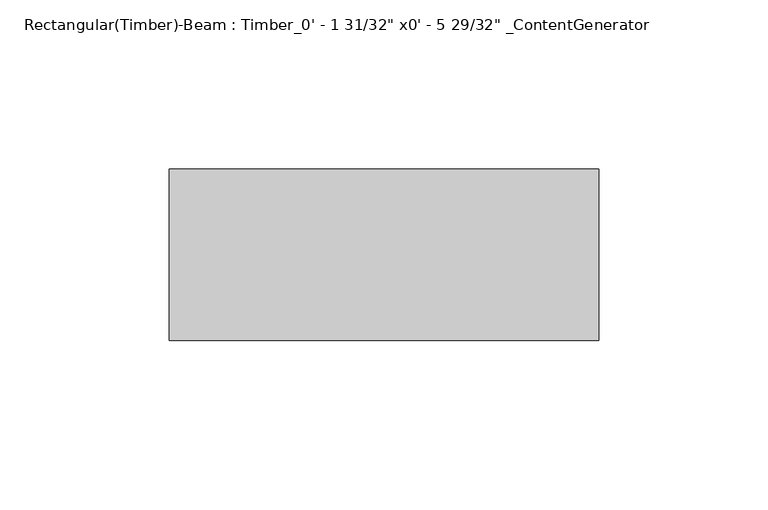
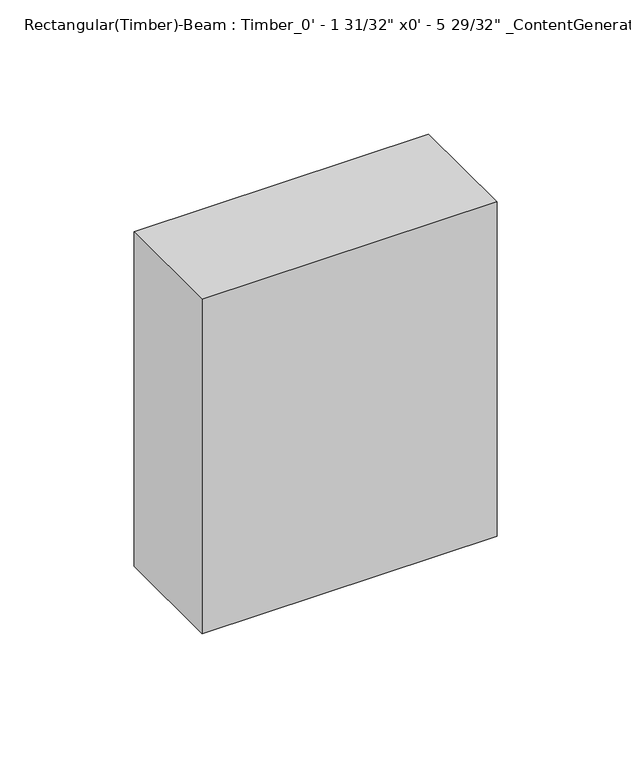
"""IFC4 building model written with IfcOpenShell, lengths in millimetres: beam geometry."""

import ifcopenshell
import ifcopenshell.guid

model = None  # the IFC model being written
_history = None  # IfcOwnerHistory: only IFC2X3 demands one
_inside = {}  # id of a spatial element -> (the spatial element, [elements in it])
_under = {}  # id of a project, library or spatial element -> (it, [spatial elements below it])
_declared = {}  # id of a project -> (the project, [libraries it declares])
_typed = {}  # id of a type object -> (the type object, [elements of that type])
_made_of = {}  # id of a material, layer set ... -> (it, [elements and type objects made of it])


def new_model(schema):
    """Start an empty IFC model of exactly this schema.

    Asked for "IFC4X3", IfcOpenShell would pick the latest addendum, in which some entities
    have other attributes; the version numbers below select the first issue.
    IFC2X3 requires an IfcOwnerHistory on every rooted entity: one is made here for all.
    """
    global model, _history
    if schema == "IFC4X3":
        model = ifcopenshell.file(schema_version=(4, 3, 0, 0))
    else:
        model = ifcopenshell.file(schema=schema)
    _inside.clear()
    _under.clear()
    _declared.clear()
    _typed.clear()
    _made_of.clear()
    _history = None
    if model.schema == "IFC2X3":
        org = make("IfcOrganization", Name="unknown")
        user = make(
            "IfcPersonAndOrganization",
            ThePerson=make("IfcPerson", FamilyName="unknown"),
            TheOrganization=org,
        )
        app = make(
            "IfcApplication",
            ApplicationDeveloper=org,
            Version="unknown",
            ApplicationFullName="unknown",
            ApplicationIdentifier="unknown",
        )
        _history = make(
            "IfcOwnerHistory",
            OwningUser=user,
            OwningApplication=app,
            ChangeAction="ADDED",
            CreationDate=0,
        )
    return model


def make(cls, **values):
    """One entity of the class cls with the attributes given. An attribute that is None is left unset."""
    return model.create_entity(
        cls, **{name: value for name, value in values.items() if value is not None}
    )


def rooted(cls, **values):
    """An entity with a GlobalId (a new one), such as an element, a storey or a relation."""
    return make(cls, GlobalId=ifcopenshell.guid.new(), OwnerHistory=_history, **values)


def si_unit(unit_type, name, prefix=None):
    """IfcSIUnit, for example si_unit("LENGTHUNIT", "METRE", prefix="MILLI")."""
    return make("IfcSIUnit", UnitType=unit_type, Prefix=prefix, Name=name)


def assignment(units):
    """IfcUnitAssignment: the units of a project."""
    return None if units is None else make("IfcUnitAssignment", Units=units)


def point(xyz):
    """IfcCartesianPoint."""
    return None if xyz is None else make("IfcCartesianPoint", Coordinates=xyz)


def direction(xyz):
    """IfcDirection."""
    return None if xyz is None else make("IfcDirection", DirectionRatios=xyz)


def frame(location, z_axis=None, x_axis=None):
    """IfcAxis2Placement3D, a coordinate frame: its origin and axes. An axis left out is left unset."""
    return make(
        "IfcAxis2Placement3D",
        Location=point(location),
        Axis=direction(z_axis),
        RefDirection=direction(x_axis),
    )


def origin():
    """The frame at (0, 0, 0) with its axes left unset."""
    return frame((0.0, 0.0, 0.0))


def place(relative_to, where):
    """IfcLocalPlacement: puts the frame where relative to a parent placement (None: the world)."""
    return make(
        "IfcLocalPlacement", PlacementRelTo=relative_to, RelativePlacement=where
    )


def context(
    kind, dimensions, precision=None, world=None, true_north=None, identifier=None
):
    """IfcGeometricRepresentationContext, for example the 3D "Model" context."""
    return make(
        "IfcGeometricRepresentationContext",
        ContextIdentifier=identifier,
        ContextType=kind,
        CoordinateSpaceDimension=dimensions,
        Precision=precision,
        WorldCoordinateSystem=world,
        TrueNorth=true_north,
    )


def project(units=None, contexts=None):
    """IfcProject with its units and contexts."""
    return rooted(
        "IfcProject",
        Name="project",
        RepresentationContexts=contexts,
        UnitsInContext=assignment(units),
    )


def spatial(cls, under=None, at=None, **own):
    """A site, building, storey or space (cls), placed at a placement, below another one or the project."""
    s = rooted(cls, ObjectPlacement=at, **own)
    if under is not None:
        _under.setdefault(under.id(), (under, []))[1].append(s)
    return s


def polyline(points):
    """IfcPolyline through the points."""
    return make("IfcPolyline", Points=[point(p) for p in points])


def outline(outer, holes=None, kind="AREA"):
    """IfcArbitraryClosedProfileDef: a profile drawn as a closed curve; with holes, ...WithVoids."""
    if holes is None:
        return make("IfcArbitraryClosedProfileDef", ProfileType=kind, OuterCurve=outer)
    return make(
        "IfcArbitraryProfileDefWithVoids",
        ProfileType=kind,
        OuterCurve=outer,
        InnerCurves=holes,
    )


def extrude(swept, where, along, depth):
    """IfcExtrudedAreaSolid: the profile swept, set in the frame where, extruded along a direction by depth."""
    return make(
        "IfcExtrudedAreaSolid",
        SweptArea=swept,
        Position=where,
        ExtrudedDirection=direction(along),
        Depth=depth,
    )


def shape(context_of_items, identifier, shape_type, items):
    """IfcShapeRepresentation: the items that make up one representation, for example the "Body"."""
    return make(
        "IfcShapeRepresentation",
        ContextOfItems=context_of_items,
        RepresentationIdentifier=identifier,
        RepresentationType=shape_type,
        Items=items,
    )


def source(mapping_origin, context_of_items, identifier, shape_type, items):
    """IfcRepresentationMap: a shape defined once, which mapped items show again and again."""
    return make(
        "IfcRepresentationMap",
        MappingOrigin=mapping_origin,
        MappedRepresentation=shape(context_of_items, identifier, shape_type, items),
    )


def transform(
    local_origin,
    x_axis=None,
    y_axis=None,
    z_axis=None,
    scale=None,
    scale2=None,
    scale3=None,
    uniform=True,
):
    """IfcCartesianTransformationOperator3D, or its non-uniform kind. x_axis, y_axis, z_axis: its Axis1, 2, 3."""
    if uniform:
        return make(
            "IfcCartesianTransformationOperator3D",
            Axis1=direction(x_axis),
            Axis2=direction(y_axis),
            LocalOrigin=point(local_origin),
            Scale=scale,
            Axis3=direction(z_axis),
        )
    return make(
        "IfcCartesianTransformationOperator3DnonUniform",
        Axis1=direction(x_axis),
        Axis2=direction(y_axis),
        LocalOrigin=point(local_origin),
        Scale=scale,
        Axis3=direction(z_axis),
        Scale2=scale2,
        Scale3=scale3,
    )


def mapped(mapping_source, mapping_target):
    """IfcMappedItem: shows the shape of a source again, moved by a transform."""
    return make(
        "IfcMappedItem", MappingSource=mapping_source, MappingTarget=mapping_target
    )


def made_of(thing, what):
    """Note that an element or type object is made of a material, layer set ...; save() writes the relation."""
    if what is not None:
        _made_of.setdefault(what.id(), (what, []))[1].append(thing)
    return thing


def element(
    cls,
    number,
    at=None,
    inside=None,
    cuts=None,
    type_object=None,
    material=None,
    context=None,
    identifier="Body",
    shape_type=None,
    held_by="IfcProductDefinitionShape",
    body=None,
    shapes=None,
    **own,
):
    """One element of the class cls, such as IfcWall. Its Tag is "e" and its number.

    at: its placement. inside: the storey or other place that contains it. cuts: it is an
    opening in that element (IfcRelVoidsElement). A single representation is given by context,
    identifier, shape_type and body (its items); several are given by shapes. held_by: the class
    of the entity that holds the representations. save() writes the other relations.
    """
    e = rooted(cls, Tag="e%d" % number, ObjectPlacement=at, **own)
    if body is not None:
        shapes = [shape(context, identifier, shape_type, body)]
    if shapes is not None:
        e.Representation = make(held_by, Representations=shapes)
    if inside is not None:
        _inside.setdefault(inside.id(), (inside, []))[1].append(e)
    if cuts is not None:
        rooted(
            "IfcRelVoidsElement", RelatingBuildingElement=cuts, RelatedOpeningElement=e
        )
    if type_object is not None:
        _typed.setdefault(type_object.id(), (type_object, []))[1].append(e)
    return made_of(e, material)


def aggregate(whole, parts):
    """IfcRelAggregates: a whole, such as a stair, and the parts it consists of."""
    return rooted("IfcRelAggregates", RelatingObject=whole, RelatedObjects=parts)


def save(model, path):
    """Write the relations noted so far, then the file.

    IfcRelAggregates (storeys below a building ...), IfcRelContainedInSpatialStructure (elements
    in a storey), IfcRelDefinesByType, IfcRelAssociatesMaterial and IfcRelDeclares: one each for
    every whole, place, type object, material and project.
    """
    for whole, parts in _under.values():
        aggregate(whole, parts)
    for where, things in _inside.values():
        rooted(
            "IfcRelContainedInSpatialStructure",
            RelatedElements=things,
            RelatingStructure=where,
        )
    for kind, things in _typed.values():
        rooted("IfcRelDefinesByType", RelatedObjects=things, RelatingType=kind)
    for what, things in _made_of.values():
        rooted("IfcRelAssociatesMaterial", RelatedObjects=things, RelatingMaterial=what)
    for by, libraries in _declared.values():
        rooted("IfcRelDeclares", RelatingContext=by, RelatedDefinitions=libraries)
    model.write(path)


def beam_58c9feb9(model_context):
    return source(origin(), model_context, "Body", "SweptSolid", [
        extrude(outline(polyline([(76.2149997, 25.4), (76.2149997, -25.4), (-50.8150003, -25.4), (-50.8150003, 25.4), (76.2149997, 25.4)])), frame((0.0, 0.0, -76.2), z_axis=(0.0, 0.0, 1.0), x_axis=(1.0, 0.0, 0.0)), (0.0, 0.0, 1.0), 152.4),
    ])


if __name__ == "__main__":
    model = new_model("IFC4")
    model_context = context("Model", 3, world=origin())
    ifc_project = project(units=[si_unit("LENGTHUNIT", "METRE", prefix="MILLI")], contexts=[model_context])
    site = spatial("IfcSite", under=ifc_project)
    building = spatial("IfcBuilding", under=site)
    placement = place(None, origin())
    beam_shape = beam_58c9feb9(model_context)
    element("IfcBeam", 1, ObjectType="Rectangular(Timber)-Beam : Timber_0' - 1 31/32\" x0' - 5 29/32\" _ContentGenerator", at=placement, inside=building, context=model_context, shape_type="MappedRepresentation", body=[
        mapped(beam_shape, transform((0.0, 0.0, 0.0), x_axis=(1.0, 0.0, 0.0), y_axis=(0.0, 1.0, 0.0), z_axis=(0.0, 0.0, 1.0))),
    ])
    save(model, "model.ifc")
